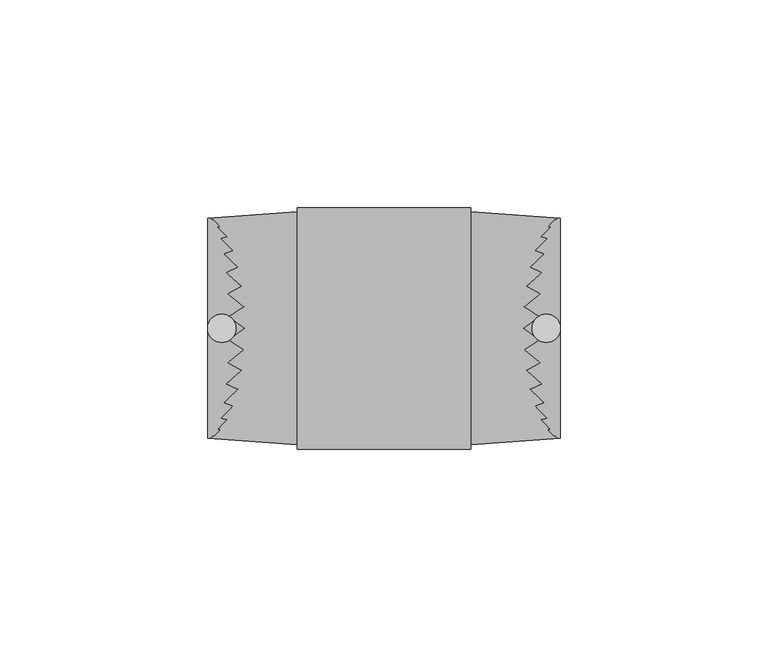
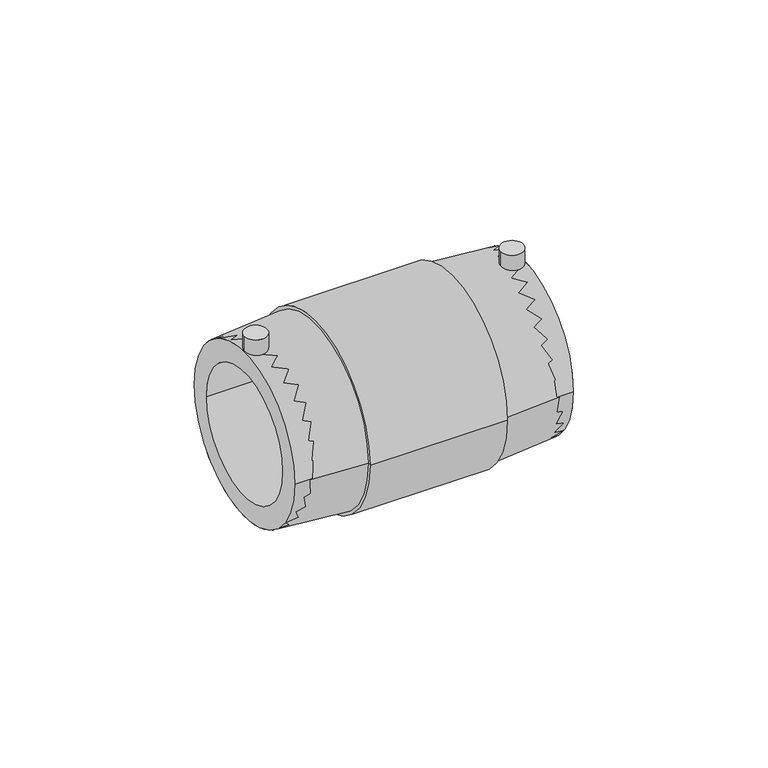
"""IFC4 building model written with IfcOpenShell, lengths in millimetres: pipe fitting geometry, EGB_VASEN_ PPR_Manguito electrosoldable WXRD100 : Manguito electrosoldable WXRD100."""

from ifc_helpers import new_model, si_unit, point, frame, frame_2d, origin, origin_2d, place, context, project, spatial, polyline, circle_curve, trimmed, segment, composite_curve, outline, extrude, source, transform, mapped, element, save
from ifc_brep_helpers import plane_surface, cylinder_surface, revolved_surface, advanced_brep


def pipe_fitting_3bd2b143(model_context):
    return source(origin(), model_context, "Body", "SolidModel", [
        extrude(outline(composite_curve([segment(trimmed(circle_curve(origin_2d(), 26.5), [point((-26.5, 0.0))], [point((26.5, 0.0))], False, "CARTESIAN"), True, "CONTINUOUS"), segment(trimmed(circle_curve(origin_2d(), 26.5), [point((26.5, 0.0))], [point((-26.5, 0.0))], False, "CARTESIAN"), True, "CONTINUOUS")], self_intersect=False), holes=[composite_curve([segment(trimmed(circle_curve(origin_2d(), 20.0), [point((-20.0, 0.0))], [point((20.0, 0.0))], True, "CARTESIAN"), True, "CONTINUOUS"), segment(trimmed(circle_curve(origin_2d(), 20.0), [point((20.0, 0.0))], [point((-20.0, 0.0))], True, "CARTESIAN"), True, "CONTINUOUS")], self_intersect=False)]), frame((-42.5, 0.0, 0.0), z_axis=(1.0, 0.0, 0.0), x_axis=(0.0, 1.0, 0.0)), (0.0, 0.0, 1.0), 85.0),
        extrude(outline(composite_curve([segment(trimmed(circle_curve(frame_2d((-39.0878802, 0.0)), 3.4121198), [point((-42.5, 0.0))], [point((-35.6757605, 0.0))], False, "CARTESIAN"), True, "CONTINUOUS"), segment(trimmed(circle_curve(frame_2d((-39.0878802, 0.0)), 3.4121198), [point((-35.6757605, 0.0))], [point((-42.5, 0.0))], False, "CARTESIAN"), True, "CONTINUOUS")], self_intersect=False)), frame((0.0, 0.0, 22.0), z_axis=(0.0, 0.0, 1.0), x_axis=(1.0, 0.0, 0.0)), (0.0, 0.0, 1.0), 9.5),
        extrude(outline(composite_curve([segment(trimmed(circle_curve(frame_2d((39.0878802, 0.0)), 3.4121198), [point((35.6757605, 0.0))], [point((42.5, 0.0))], False, "CARTESIAN"), True, "CONTINUOUS"), segment(trimmed(circle_curve(frame_2d((39.0878802, 0.0)), 3.4121198), [point((42.5, 0.0))], [point((35.6757605, 0.0))], False, "CARTESIAN"), True, "CONTINUOUS")], self_intersect=False)), frame((0.0, 0.0, 22.0), z_axis=(0.0, 0.0, 1.0), x_axis=(1.0, 0.0, 0.0)), (0.0, 0.0, 1.0), 9.5),
        advanced_brep(
        [(20.85, -28.082849, 0.0), (20.85, 28.082849, 0.0), (42.5, 26.5, 0.0), (42.5, -26.5, 0.0), (20.85, -29.082849, 0.0), (20.85, 29.082849, 0.0), (-20.85, -29.082849, 0.0), (-20.85, 29.082849, 0.0), (-20.85, -28.082849, 0.0), (-20.85, 28.082849, 0.0), (-42.5, -26.5, 0.0), (-42.5, 26.5, 0.0)],
        [
            (0, 1, circle_curve(frame((20.85, 0.0, 0.0), z_axis=(1.0, 0.0, 0.0), x_axis=(0.0, 1.0, 0.0)), 28.082849)),
            (1, 2),
            (2, 3, circle_curve(frame((42.5, 0.0, 0.0), z_axis=(-1.0, 0.0, 0.0), x_axis=(0.0, 1.0, 0.0)), 26.5)),
            (3, 0),
            (1, 0, circle_curve(frame((20.85, 0.0, 0.0), z_axis=(1.0, 0.0, 0.0), x_axis=(0.0, 1.0, 0.0)), 28.082849)),
            (3, 2, circle_curve(frame((42.5, 0.0, 0.0), z_axis=(-1.0, 0.0, 0.0), x_axis=(0.0, 1.0, 0.0)), 26.5)),
            (4, 5, circle_curve(frame((20.85, 0.0, 0.0), z_axis=(1.0, 0.0, 0.0), x_axis=(0.0, 1.0, 0.0)), 29.082849)),
            (5, 1),
            (0, 4),
            (5, 4, circle_curve(frame((20.85, 0.0, 0.0), z_axis=(1.0, 0.0, 0.0), x_axis=(0.0, 1.0, 0.0)), 29.082849)),
            (6, 7, circle_curve(frame((-20.85, 0.0, 0.0), z_axis=(1.0, 0.0, 0.0), x_axis=(0.0, 1.0, 0.0)), 29.082849)),
            (7, 5),
            (4, 6),
            (7, 6, circle_curve(frame((-20.85, 0.0, 0.0), z_axis=(1.0, 0.0, 0.0), x_axis=(0.0, 1.0, 0.0)), 29.082849)),
            (8, 9, circle_curve(frame((-20.85, 0.0, 0.0), z_axis=(1.0, 0.0, 0.0), x_axis=(0.0, 1.0, 0.0)), 28.082849)),
            (9, 7),
            (6, 8),
            (9, 8, circle_curve(frame((-20.85, 0.0, 0.0), z_axis=(1.0, 0.0, 0.0), x_axis=(0.0, 1.0, 0.0)), 28.082849)),
            (10, 11, circle_curve(frame((-42.5, 0.0, 0.0), z_axis=(1.0, 0.0, 0.0), x_axis=(0.0, 1.0, 0.0)), 26.5)),
            (11, 9),
            (8, 10),
            (11, 10, circle_curve(frame((-42.5, 0.0, 0.0), z_axis=(1.0, 0.0, 0.0), x_axis=(0.0, 1.0, 0.0)), 26.5)),
            (2, 11),
            (10, 3),
        ],
        [
            revolved_surface(polyline([(42.5, 26.5, 0.0), (20.85, 28.082849, 0.0)]), (-36.2721997, 0.0, 0.0), (-1.0, 0.0, 0.0)),
            plane_surface(frame((20.85, 0.0, 0.0), z_axis=(1.0, 0.0, 0.0), x_axis=(0.0, 1.0, 0.0))),
            cylinder_surface(frame((-36.2721997, 0.0, 0.0), z_axis=(-1.0, 0.0, 0.0), x_axis=(0.0, 1.0, 0.0)), 29.082849),
            plane_surface(frame((-20.85, 0.0, 0.0), z_axis=(-1.0, 0.0, 0.0), x_axis=(0.0, 1.0, 0.0))),
            revolved_surface(polyline([(-20.85, 28.082849, 0.0), (-42.5, 26.5, 0.0)]), (-36.2721997, 0.0, 0.0), (-1.0, 0.0, 0.0)),
            revolved_surface(polyline([(-42.5, 26.5, 0.0), (42.5, 26.5, 0.0)]), (-36.2721997, 0.0, 0.0), (-1.0, 0.0, 0.0)),
        ],
        [
            (0, [[1, 2, 3, 4]]),
            (0, [[5, -4, 6, -2]]),
            (1, [[7, 8, -1, 9]]),
            (1, [[10, -9, -5, -8]]),
            (2, [[11, 12, -7, 13]]),
            (2, [[14, -13, -10, -12]]),
            (3, [[15, 16, -11, 17]]),
            (3, [[18, -17, -14, -16]]),
            (4, [[19, 20, -15, 21]]),
            (4, [[22, -21, -18, -20]]),
            (5, [[-3, 23, -19, 24]]),
            (5, [[-6, -24, -22, -23]]),
        ],
    ),
    ])


if __name__ == "__main__":
    model = new_model("IFC4")
    model_context = context("Model", 3, world=origin())
    ifc_project = project(units=[si_unit("LENGTHUNIT", "METRE", prefix="MILLI")], contexts=[model_context])
    site = spatial("IfcSite", under=ifc_project)
    building = spatial("IfcBuilding", under=site)
    placement = place(None, origin())
    pipe_fitting_shape = pipe_fitting_3bd2b143(model_context)
    element("IfcPipeFitting", 1, ObjectType="EGB_VASEN_ PPR_Manguito electrosoldable WXRD100 : Manguito electrosoldable WXRD100", at=placement, inside=building, context=model_context, shape_type="MappedRepresentation", body=[
        mapped(pipe_fitting_shape, transform((0.0, 0.0, 0.0), x_axis=(1.0, 0.0, 0.0), y_axis=(0.0, 1.0, 0.0), z_axis=(0.0, 0.0, 1.0))),
    ])
    save(model, "model.ifc")
